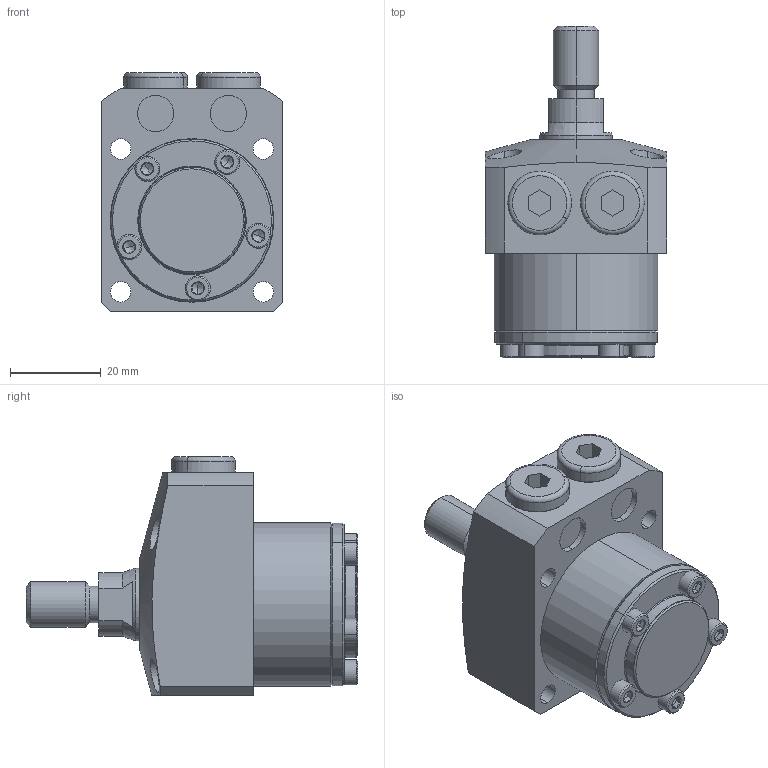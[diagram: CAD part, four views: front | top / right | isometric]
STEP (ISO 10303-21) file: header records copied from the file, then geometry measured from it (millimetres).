
FILE_DESCRIPTION (( 'STEP AP203' ), '1' );
FILE_NAME ('680360-CT-015.step', '2016-11-02T03:16:53', ( 'wxp' ), ( '' ), 'SwSTEP 2.0', 'SolidWorks 2011', '' );
FILE_SCHEMA (( 'CONFIG_CONTROL_DESIGN' ));
Length unit declared in the file: millimetre
Products named in the file (6): 680360-CT-015; 葩璃 68036-51-12^680360-CT-015; 葩璃 68036-15-5^680360-CT-015; 葩璃 68036-15-4^680360-CT-015; 葩璃 68036-15-3^680360-CT-015; 葩璃 68036-15-1^680360-CT-015
Assembly tree (10 placements, depth 2):
  680360-CT-015
    葩璃 68036-15-5^680360-CT-015  x2
    葩璃 68036-51-12^680360-CT-015
    葩璃 68036-15-4^680360-CT-015  x5
    葩璃 68036-15-1^680360-CT-015
    葩璃 68036-15-3^680360-CT-015
Bounding box: 40 x 73 x 52.5 mm (x, y, z)
Volume: 67504.1 mm3; surface area: 19314.8 mm2
Topology: 10 solids, 10 shells, 311 faces, 612 edges, 338 vertices
Faces by surface type: plane 124, cylinder 87, cone 84, torus 16
Entity records: 5467 total; most frequent: CARTESIAN_POINT 1098, DIRECTION 837, ORIENTED_EDGE 680, AXIS2_PLACEMENT_3D 349, EDGE_CURVE 340, VERTEX_POINT 206, EDGE_LOOP 196, CIRCLE 175
